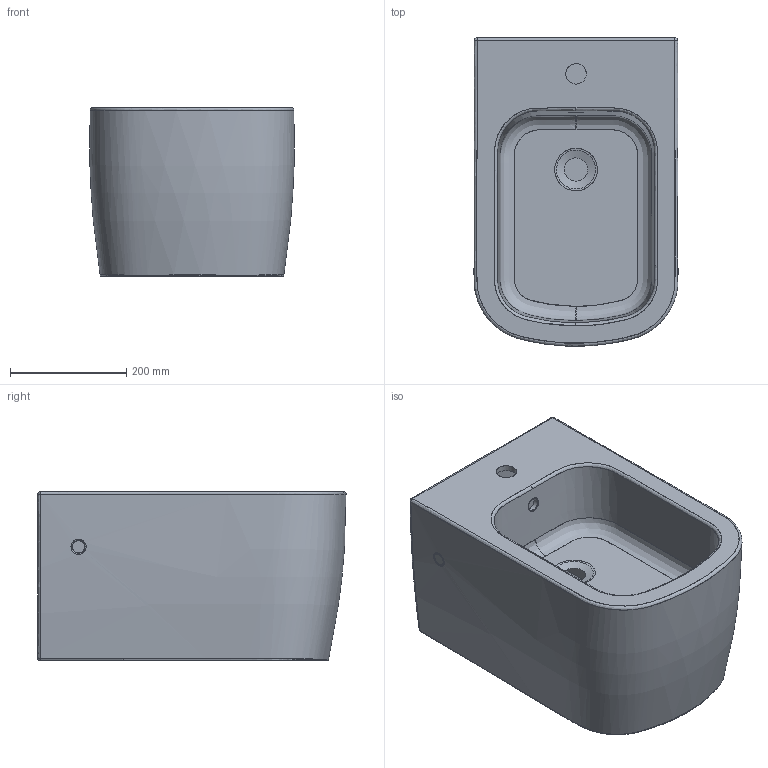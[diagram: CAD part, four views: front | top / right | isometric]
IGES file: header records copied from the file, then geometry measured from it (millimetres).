
Global section: file name: C:\Users\FULVIO\Desktop\Archivio Nic\Semplice\Bidet Sospeso\Modello 3D\BidetSempliceSospeso.igs; native system: Rhinoceros ( Mar  6 2018 ); preprocessor: Trout Lake IGES 012 Mar  6 2018; date: 191216.105032; units: centimetre
Bounding box: 350.55 x 529.69 x 290 mm (x, y, z)
Surface area: 912902.1 mm2 (no closed solid volume)
Topology: 0 solids, 0 shells, 51 faces, 559 edges, 552 vertices
Faces by surface type: bspline 51
